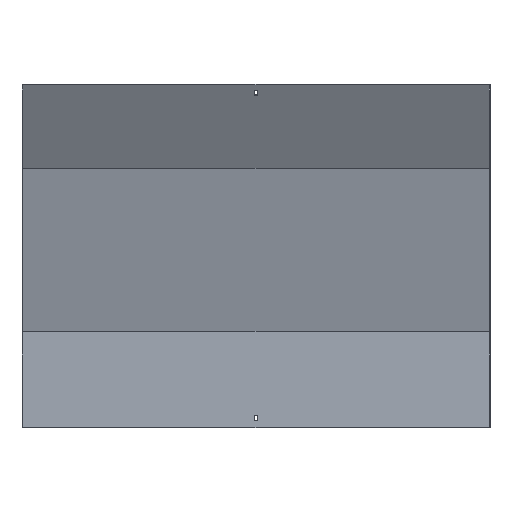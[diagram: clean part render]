
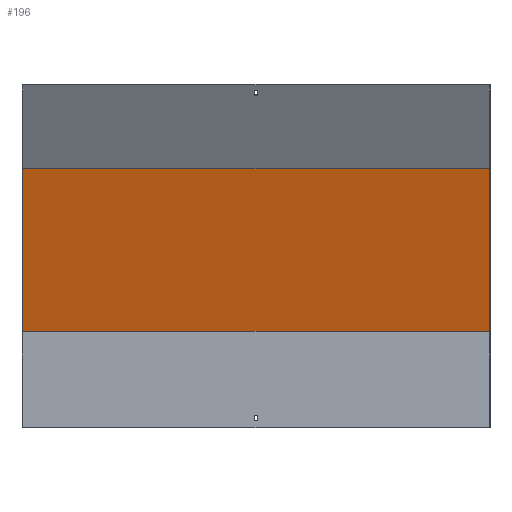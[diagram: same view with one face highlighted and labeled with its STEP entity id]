
A CAD part, front view. The second image highlights one B-rep face of the part: STEP entity #196.
In plain terms, the highlighted planar face has unit normal (0, -0.966, -0.259).
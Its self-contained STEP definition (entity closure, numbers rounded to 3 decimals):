
#21 = DIRECTION ( 'NONE',  ( -1., 0., 0. ) ) ;
#26 = CARTESIAN_POINT ( 'NONE',  ( 400., 18.5, 165.436 ) ) ;
#30 = VERTEX_POINT ( 'NONE', #612 ) ;
#31 = EDGE_CURVE ( 'NONE', #30, #180, #290, .T. ) ;
#43 = LINE ( 'NONE', #309, #667 ) ;
#95 = DIRECTION ( 'NONE',  ( 0., -0.966, -0.259 ) ) ;
#180 = VERTEX_POINT ( 'NONE', #745 ) ;
#196 = ADVANCED_FACE ( 'NONE', ( #561 ), #239, .T. ) ;
#213 = EDGE_CURVE ( 'NONE', #301, #279, #660, .T. ) ;
#239 = PLANE ( 'NONE',  #743 ) ;
#248 = ORIENTED_EDGE ( 'NONE', *, *, #31, .T. ) ;
#279 = VERTEX_POINT ( 'NONE', #420 ) ;
#290 = LINE ( 'NONE', #737, #487 ) ;
#301 = VERTEX_POINT ( 'NONE', #26 ) ;
#309 = CARTESIAN_POINT ( 'NONE',  ( -400., 58.62, 15.707 ) ) ;
#360 = VECTOR ( 'NONE', #21, 1000. ) ;
#371 = DIRECTION ( 'NONE',  ( -1., 0., 0. ) ) ;
#382 = VECTOR ( 'NONE', #682, 1000. ) ;
#420 = CARTESIAN_POINT ( 'NONE',  ( -400., 18.5, 165.436 ) ) ;
#486 = DIRECTION ( 'NONE',  ( 0., 0.259, -0.966 ) ) ;
#487 = VECTOR ( 'NONE', #371, 1000. ) ;
#511 = ORIENTED_EDGE ( 'NONE', *, *, #213, .F. ) ;
#561 = FACE_OUTER_BOUND ( 'NONE', #567, .T. ) ;
#567 = EDGE_LOOP ( 'NONE', ( #814, #511, #659, #248 ) ) ;
#596 = EDGE_CURVE ( 'NONE', #279, #180, #43, .T. ) ;
#598 = CARTESIAN_POINT ( 'NONE',  ( 401.5, 18.5, 165.436 ) ) ;
#612 = CARTESIAN_POINT ( 'NONE',  ( 400., -56.524, 445.43 ) ) ;
#659 = ORIENTED_EDGE ( 'NONE', *, *, #699, .T. ) ;
#660 = LINE ( 'NONE', #598, #360 ) ;
#666 = CARTESIAN_POINT ( 'NONE',  ( 401.5, 17.87, 167.788 ) ) ;
#667 = VECTOR ( 'NONE', #825, 1000. ) ;
#682 = DIRECTION ( 'NONE',  ( 0., -0.259, 0.966 ) ) ;
#699 = EDGE_CURVE ( 'NONE', #301, #30, #816, .T. ) ;
#737 = CARTESIAN_POINT ( 'NONE',  ( 401.5, -56.524, 445.43 ) ) ;
#743 = AXIS2_PLACEMENT_3D ( 'NONE', #666, #95, #486 ) ;
#745 = CARTESIAN_POINT ( 'NONE',  ( -400., -56.524, 445.43 ) ) ;
#814 = ORIENTED_EDGE ( 'NONE', *, *, #596, .F. ) ;
#816 = LINE ( 'NONE', #824, #382 ) ;
#824 = CARTESIAN_POINT ( 'NONE',  ( 400., 58.62, 15.707 ) ) ;
#825 = DIRECTION ( 'NONE',  ( 0., -0.259, 0.966 ) ) ;
